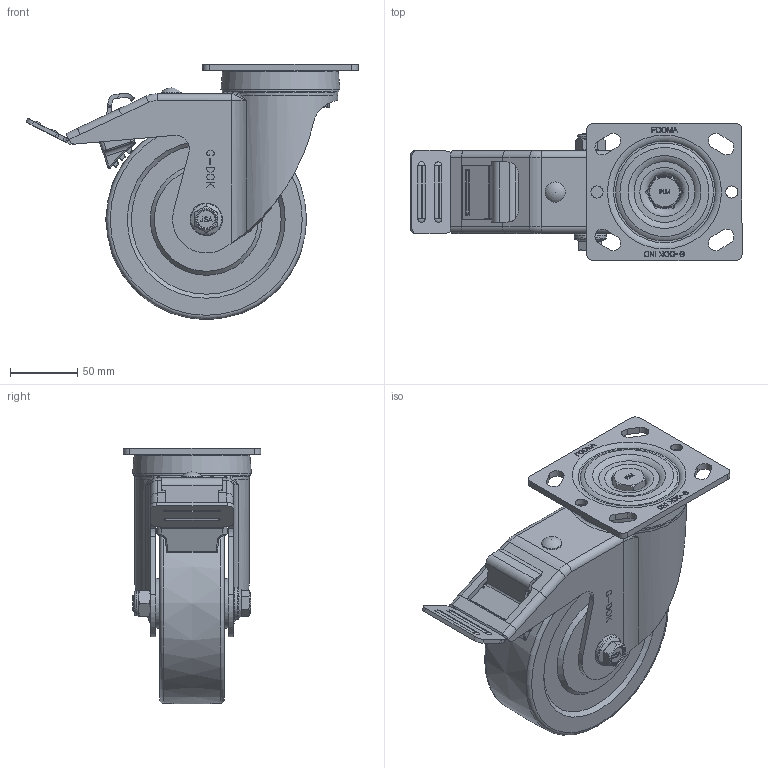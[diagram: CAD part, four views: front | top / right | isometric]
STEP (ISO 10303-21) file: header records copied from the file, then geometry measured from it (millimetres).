
FILE_DESCRIPTION(/* description */ (''),/* implementation_level */ '2;1');
FILE_NAME(/* name */ '\\192.168.10.38\지덕공유\1.기술연구소\2.연구개발 진행중\28.PLM-SERIES_MEDIUM\제품설계\홈페이지용 도면\PLM-150-BSF-MCD.stp',/* time_stamp */ '2022-03-04T17:46:45+09:00',/* author */ ('admin'),/* organization */ (''),/* preprocessor_version */ 'ST-DEVELOPER v18.1',/* originating_system */ 'Autodesk Inventor 2021',/* authorisation */ '');
FILE_SCHEMA (('AUTOMOTIVE_DESIGN { 1 0 10303 214 3 1 1 }'));
Products named in the file (1): PLM-150-BSF-MCD
Bounding box: 246.12 x 102 x 189.46 mm (x, y, z)
Volume: 1143197.5 mm3; surface area: 180201.5 mm2
Topology: 2 solids, 2 shells, 1692 faces, 4583 edges, 2942 vertices
Faces by surface type: plane 934, cylinder 385, bspline 248, cone 52, torus 44, sphere 29
Full cylindrical faces by diameter (mm): 0.136 x1, 3 x1, 3.2 x3, 6 x2, 9 x3, 12 x1, 14 x1, 15 x1, 16 x1, 18.5 x1, 24 x1, 37 x2, 64.8 x1, 72.8 x1, 85.857 x1
Entity records: 60285 total; most frequent: CARTESIAN_POINT 19159, ORIENTED_EDGE 9120, DIRECTION 7754, EDGE_CURVE 4560, VERTEX_POINT 2942, LINE 2838, VECTOR 2838, AXIS2_PLACEMENT_3D 2458
